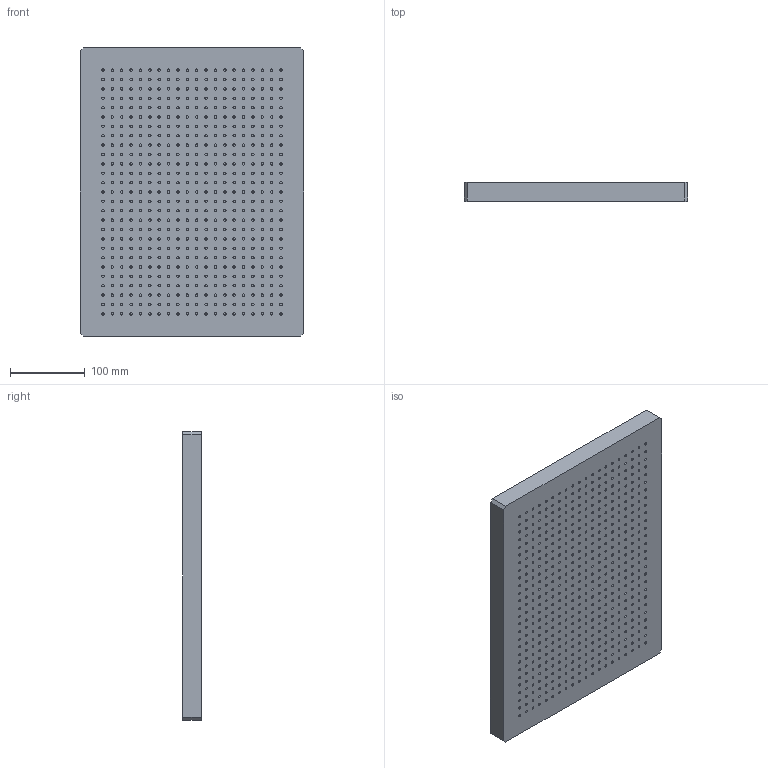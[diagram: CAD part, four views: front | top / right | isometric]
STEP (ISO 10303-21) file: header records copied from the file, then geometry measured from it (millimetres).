
FILE_DESCRIPTION(/* description */ (''),/* implementation_level */ '2;1');
FILE_NAME(/* name */ '',/* time_stamp */ '2025-12-22T12:12:21+08:00',/* author */ ('Q'),/* organization */ (''),/* preprocessor_version */ 'ST-DEVELOPER v20',/* originating_system */ 'Autodesk Inventor 2025',/* authorisation */ '');
FILE_SCHEMA (('AUTOMOTIVE_DESIGN { 1 0 10303 214 3 1 1 }'));
Length unit declared in the file: millimetre
Products named in the file (1): 光学平板V2.1
Bounding box: 297.5 x 25 x 385 mm (x, y, z)
Volume: 2791476.7 mm3; surface area: 339527 mm2
Topology: 1 solids, 1 shells, 1370 faces, 2064 edges, 1376 vertices
Faces by surface type: plane 690, cylinder 680
Full cylindrical faces by diameter (mm): 3.242 x540, 4.917 x140
Entity records: 30931 total; most frequent: DIRECTION 6166, CARTESIAN_POINT 4811, ORIENTED_EDGE 4128, AXIS2_PLACEMENT_3D 2731, EDGE_CURVE 2064, EDGE_LOOP 2050, VERTEX_POINT 1376, FACE_OUTER_BOUND 1370
